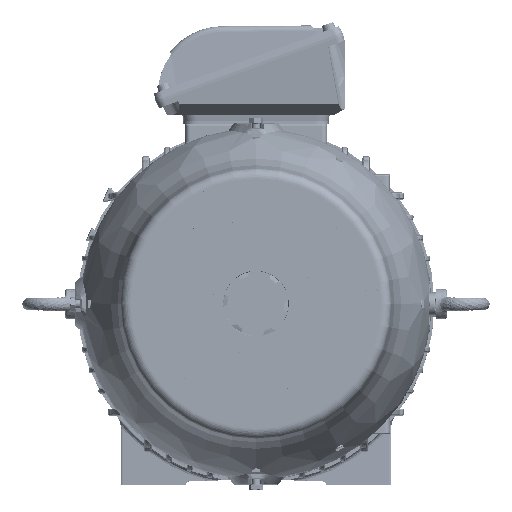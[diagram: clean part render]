
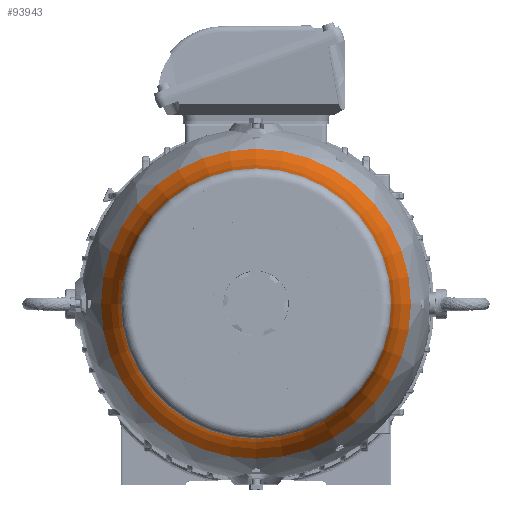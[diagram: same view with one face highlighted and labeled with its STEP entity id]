
A CAD part, top view. The second image highlights one B-rep face of the part: STEP entity #93943.
In plain terms, the highlighted toroidal (fillet/blend) face has major radius 264.661 mm and minor radius 130 mm.
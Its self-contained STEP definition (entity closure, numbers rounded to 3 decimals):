
#12155=TOROIDAL_SURFACE('',#101128,264.661,130.);
#26429=FACE_OUTER_BOUND('',#32058,.T.);
#32058=EDGE_LOOP('',(#78855,#78856,#78857,#78858,#78859,#78860));
#37017=CIRCLE('',#101123,134.976);
#37018=CIRCLE('',#101124,134.976);
#37022=CIRCLE('',#101129,154.526);
#37023=CIRCLE('',#101130,154.526);
#37024=CIRCLE('',#101131,130.);
#44262=VERTEX_POINT('',#238554);
#44263=VERTEX_POINT('',#238555);
#44266=VERTEX_POINT('',#238564);
#44267=VERTEX_POINT('',#238565);
#56292=EDGE_CURVE('',#44262,#44263,#37017,.T.);
#56293=EDGE_CURVE('',#44263,#44262,#37018,.T.);
#56297=EDGE_CURVE('',#44266,#44267,#37022,.T.);
#56298=EDGE_CURVE('',#44267,#44266,#37023,.T.);
#56299=EDGE_CURVE('',#44267,#44263,#37024,.T.);
#78855=ORIENTED_EDGE('',*,*,#56297,.F.);
#78856=ORIENTED_EDGE('',*,*,#56298,.F.);
#78857=ORIENTED_EDGE('',*,*,#56299,.T.);
#78858=ORIENTED_EDGE('',*,*,#56293,.T.);
#78859=ORIENTED_EDGE('',*,*,#56292,.T.);
#78860=ORIENTED_EDGE('',*,*,#56299,.F.);
#93943=ADVANCED_FACE('',(#26429),#12155,.F.);
#101123=AXIS2_PLACEMENT_3D('',#238556,#117513,#117514);
#101124=AXIS2_PLACEMENT_3D('',#238557,#117515,#117516);
#101128=AXIS2_PLACEMENT_3D('',#238563,#117523,#117524);
#101129=AXIS2_PLACEMENT_3D('',#238566,#117525,#117526);
#101130=AXIS2_PLACEMENT_3D('',#238567,#117527,#117528);
#101131=AXIS2_PLACEMENT_3D('',#238568,#117529,#117530);
#117513=DIRECTION('center_axis',(0.,0.,
-1.));
#117514=DIRECTION('ref_axis',(-1.,0.,0.));
#117515=DIRECTION('center_axis',(0.,0.,
-1.));
#117516=DIRECTION('ref_axis',(-1.,0.,0.));
#117523=DIRECTION('center_axis',(0.,0.,
-1.));
#117524=DIRECTION('ref_axis',(-1.,0.,0.));
#117525=DIRECTION('center_axis',(0.,0.,
-1.));
#117526=DIRECTION('ref_axis',(-1.,0.,0.));
#117527=DIRECTION('center_axis',(0.,0.,
-1.));
#117528=DIRECTION('ref_axis',(-1.,0.,0.));
#117529=DIRECTION('center_axis',(0.,1.,0.));
#117530=DIRECTION('ref_axis',(1.,0.,0.));
#238554=CARTESIAN_POINT('',(-134.976,0.,680.095));
#238555=CARTESIAN_POINT('',(134.976,0.,680.095));
#238556=CARTESIAN_POINT('Origin',(0.,0.,
680.095));
#238557=CARTESIAN_POINT('Origin',(0.,0.,
680.095));
#238563=CARTESIAN_POINT('Origin',(0.,0.,
689.131));
#238564=CARTESIAN_POINT('',(-154.526,0.,620.064));
#238565=CARTESIAN_POINT('',(154.526,0.,620.064));
#238566=CARTESIAN_POINT('Origin',(0.,0.,
620.064));
#238567=CARTESIAN_POINT('Origin',(0.,0.,
620.064));
#238568=CARTESIAN_POINT('Origin',(264.661,0.,
689.131));
